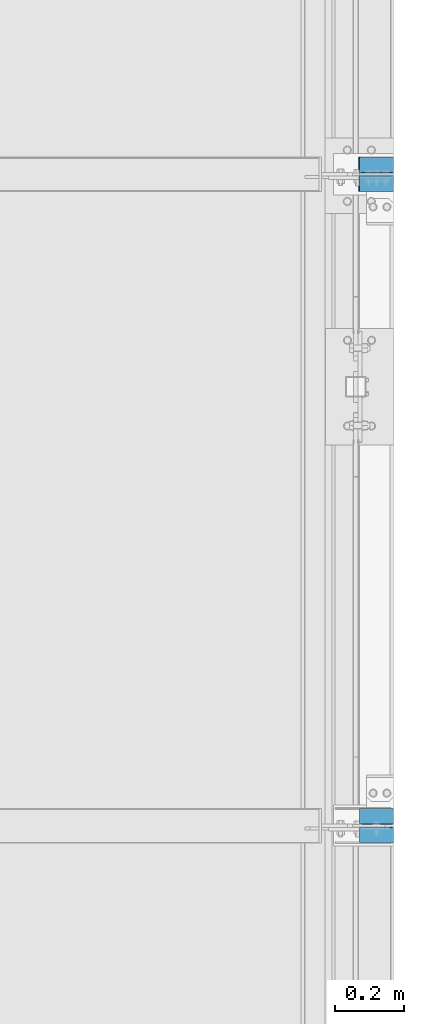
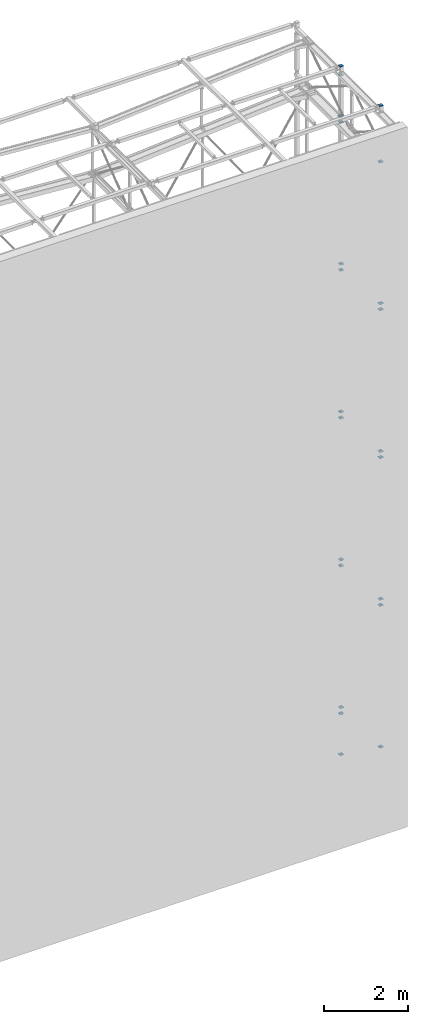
# One storey, part 5 of 271: 42 columns, 11 elements without a shape of their own.
"""IFC2X3 building model written with IfcOpenShell, lengths in millimetres."""

from ifc_helpers import new_model, si_unit, frame, origin_with_axes, origin_2d_with_axis, place, context, subcontext, project, spatial, rectangle, extrude, material, type_object, element, aggregate, save


model = new_model("IFC2X3")

# Units and contexts
model_context = context("Model", 3, precision=1e-05, world=origin_with_axes())
body_context = subcontext(model_context, "Body", "Model", "MODEL_VIEW")
ifc_project = project(units=[si_unit("LENGTHUNIT", "METRE", prefix="MILLI"), si_unit("AREAUNIT", "SQUARE_METRE"), si_unit("VOLUMEUNIT", "CUBIC_METRE"), si_unit("MASSUNIT", "GRAM", prefix="KILO"), si_unit("TIMEUNIT", "SECOND"), si_unit("PLANEANGLEUNIT", "RADIAN"), si_unit("SOLIDANGLEUNIT", "STERADIAN"), si_unit("THERMODYNAMICTEMPERATUREUNIT", "DEGREE_CELSIUS"), si_unit("LUMINOUSINTENSITYUNIT", "LUMEN")], contexts=[model_context])

# Site, building, storey
site_placement = place(None, origin_with_axes())
site = spatial("IfcSite", under=ifc_project, at=site_placement, Name="Undefined", CompositionType="ELEMENT")
building_placement = place(site_placement, origin_with_axes())
building = spatial("IfcBuilding", under=site, at=building_placement, Name="Undefined", CompositionType="ELEMENT")
storey_placement = place(building_placement, origin_with_axes())
storey = spatial("IfcBuildingStorey", under=building, at=storey_placement, Name="Undefined", CompositionType="ELEMENT", Elevation=0.0)

# Assembly, columns
assembly_1_placement = place(storey_placement, origin_with_axes())
assembly_1 = element("IfcElementAssembly", 1, at=assembly_1_placement, inside=storey, AssemblyPlace="NOTDEFINED", PredefinedType="RIGID_FRAME")
ifc_material = material(Name="STEEL/S355JR")
column_type = type_object("IfcColumnType", Name="BL4*100", PredefinedType="NOTDEFINED")
column_1_placement = place(assembly_1_placement, frame((12658.3756870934, 2749.05239091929, 19936.8499999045), z_axis=(0.0, 1.0, 0.0), x_axis=(1.0, 0.0, 0.0)))
column_1 = element("IfcColumn", 2, at=column_1_placement, type_object=column_type, material=ifc_material, Name="BLACHA", ObjectType="BL4*100", context=body_context, shape_type="SweptSolid", body=[
    extrude(rectangle(XDim=4.0, YDim=100.0, at=origin_2d_with_axis()), frame((0.0, 0.0, 45.0), z_axis=(0.0, 0.0, -1.0), x_axis=(0.0, 1.0, 0.0)), (0.0, 0.0, 1.0), 45.0),
])
column_2_placement = place(assembly_1_placement, frame((12658.3756870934, 2804.05225536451, 19936.8499999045), z_axis=(0.0, 1.0, 0.0), x_axis=(1.0, 0.0, 0.0)))
column_2 = element("IfcColumn", 3, at=column_2_placement, type_object=column_type, material=ifc_material, Name="BLACHA", ObjectType="BL4*100", context=body_context, shape_type="SweptSolid", body=[
    extrude(rectangle(XDim=4.0, YDim=100.0, at=origin_2d_with_axis()), frame((0.0, 0.0, 45.0), z_axis=(0.0, 0.0, -1.0), x_axis=(0.0, 1.0, 0.0)), (0.0, 0.0, 1.0), 45.0),
])
column_3_placement = place(assembly_1_placement, frame((12658.3756870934, 2749.05225536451, 18733.8499999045), z_axis=(0.0, 1.0, 0.0), x_axis=(1.0, 0.0, 0.0)))
column_3 = element("IfcColumn", 4, at=column_3_placement, type_object=column_type, material=ifc_material, Name="BLACHA", ObjectType="BL4*100", context=body_context, shape_type="SweptSolid", body=[
    extrude(rectangle(XDim=4.0, YDim=100.0, at=origin_2d_with_axis()), frame((0.0, 0.0, 45.0), z_axis=(0.0, 0.0, -1.0), x_axis=(0.0, 1.0, 0.0)), (0.0, 0.0, 1.0), 45.0),
])
column_4_placement = place(assembly_1_placement, frame((12658.3756870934, 2804.05211980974, 18733.8499999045), z_axis=(0.0, 1.0, 0.0), x_axis=(1.0, 0.0, 0.0)))
column_4 = element("IfcColumn", 5, at=column_4_placement, type_object=column_type, material=ifc_material, Name="BLACHA", ObjectType="BL4*100", context=body_context, shape_type="SweptSolid", body=[
    extrude(rectangle(XDim=4.0, YDim=100.0, at=origin_2d_with_axis()), frame((0.0, 0.0, 45.0), z_axis=(0.0, 0.0, -1.0), x_axis=(0.0, 1.0, 0.0)), (0.0, 0.0, 1.0), 45.0),
])
aggregate(assembly_1, [column_1, column_2, column_3, column_4])

assembly_2_placement = place(storey_placement, origin_with_axes())
assembly_2 = element("IfcElementAssembly", 6, at=assembly_2_placement, inside=storey, AssemblyPlace="NOTDEFINED", PredefinedType="RIGID_FRAME")
column_5_placement = place(assembly_2_placement, frame((12656.3756870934, 2749.05239091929, 79.8499999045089), z_axis=(0.0, 1.0, 0.0), x_axis=(1.0, 0.0, 0.0)))
column_5 = element("IfcColumn", 7, at=column_5_placement, type_object=column_type, material=ifc_material, Name="BLACHA", ObjectType="BL4*100", context=body_context, shape_type="SweptSolid", body=[
    extrude(rectangle(XDim=4.0, YDim=100.0, at=origin_2d_with_axis()), frame((0.0, 0.0, 45.0), z_axis=(0.0, 0.0, -1.0), x_axis=(0.0, 1.0, 0.0)), (0.0, 0.0, 1.0), 45.0),
])
column_6_placement = place(assembly_2_placement, frame((12656.3756870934, 2804.05225536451, 79.8499999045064), z_axis=(0.0, 1.0, 0.0), x_axis=(1.0, 0.0, 0.0)))
column_6 = element("IfcColumn", 8, at=column_6_placement, type_object=column_type, material=ifc_material, Name="BLACHA", ObjectType="BL4*100", context=body_context, shape_type="SweptSolid", body=[
    extrude(rectangle(XDim=4.0, YDim=100.0, at=origin_2d_with_axis()), frame((0.0, 0.0, 45.0), z_axis=(0.0, 0.0, -1.0), x_axis=(0.0, 1.0, 0.0)), (0.0, 0.0, 1.0), 45.0),
])
column_7_placement = place(assembly_2_placement, frame((12656.3756870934, 2749.05225536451, 1274.8499999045), z_axis=(0.0, 1.0, 0.0), x_axis=(1.0, 0.0, 0.0)))
column_7 = element("IfcColumn", 9, at=column_7_placement, type_object=column_type, material=ifc_material, Name="BLACHA", ObjectType="BL4*100", context=body_context, shape_type="SweptSolid", body=[
    extrude(rectangle(XDim=4.0, YDim=100.0, at=origin_2d_with_axis()), frame((0.0, 0.0, 45.0), z_axis=(0.0, 0.0, -1.0), x_axis=(0.0, 1.0, 0.0)), (0.0, 0.0, 1.0), 45.0),
])
column_8_placement = place(assembly_2_placement, frame((12656.3756870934, 2804.05211980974, 1274.84999990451), z_axis=(0.0, 1.0, 0.0), x_axis=(1.0, 0.0, 0.0)))
column_8 = element("IfcColumn", 10, at=column_8_placement, type_object=column_type, material=ifc_material, Name="BLACHA", ObjectType="BL4*100", context=body_context, shape_type="SweptSolid", body=[
    extrude(rectangle(XDim=4.0, YDim=100.0, at=origin_2d_with_axis()), frame((0.0, 0.0, 45.0), z_axis=(0.0, 0.0, -1.0), x_axis=(0.0, 1.0, 0.0)), (0.0, 0.0, 1.0), 45.0),
])
aggregate(assembly_2, [column_5, column_6, column_7, column_8])

assembly_3_placement = place(storey_placement, origin_with_axes())
assembly_3 = element("IfcElementAssembly", 11, at=assembly_3_placement, inside=storey, AssemblyPlace="NOTDEFINED", PredefinedType="RIGID_FRAME")
column_9_placement = place(assembly_3_placement, frame((12658.3756870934, 849.324984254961, 20202.3499999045), z_axis=(0.0, 1.0, 0.0), x_axis=(1.0, 0.0, 0.0)))
column_9 = element("IfcColumn", 12, at=column_9_placement, type_object=column_type, material=ifc_material, Name="BLACHA", ObjectType="BL4*100", context=body_context, shape_type="SweptSolid", body=[
    extrude(rectangle(XDim=4.0, YDim=100.0, at=origin_2d_with_axis()), frame((0.0, 0.0, 100.0), z_axis=(0.0, 0.0, -1.0), x_axis=(0.0, 1.0, 0.0)), (0.0, 0.0, 1.0), 100.0),
])
column_10_placement = place(assembly_3_placement, frame((12658.3756870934, 2749.32498425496, 20202.3499999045), z_axis=(0.0, 1.0, 0.0), x_axis=(1.0, 0.0, 0.0)))
column_10 = element("IfcColumn", 13, at=column_10_placement, type_object=column_type, material=ifc_material, Name="BLACHA", ObjectType="BL4*100", context=body_context, shape_type="SweptSolid", body=[
    extrude(rectangle(XDim=4.0, YDim=100.0, at=origin_2d_with_axis()), frame((0.0, 0.0, 100.0), z_axis=(0.0, 0.0, -1.0), x_axis=(0.0, 1.0, 0.0)), (0.0, 0.0, 1.0), 100.0),
])
aggregate(assembly_3, [column_9, column_10])

# Assembly, column
assembly_4_placement = place(storey_placement, origin_with_axes())
assembly_4 = element("IfcElementAssembly", 14, at=assembly_4_placement, inside=storey, AssemblyPlace="NOTDEFINED", PredefinedType="RIGID_FRAME")
column_11_placement = place(assembly_4_placement, frame((12658.3756870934, 904.052119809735, 18554.8499999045), z_axis=(0.0, 1.0, 0.0), x_axis=(1.0, 0.0, 0.0)))
column_11 = element("IfcColumn", 15, at=column_11_placement, type_object=column_type, material=ifc_material, Name="BLACHA", ObjectType="BL4*100", context=body_context, shape_type="SweptSolid", body=[
    extrude(rectangle(XDim=4.0, YDim=100.0, at=origin_2d_with_axis()), frame((0.0, 0.0, 45.0), z_axis=(0.0, 0.0, -1.0), x_axis=(0.0, 1.0, 0.0)), (0.0, 0.0, 1.0), 45.0),
])

assembly_5_placement = place(storey_placement, origin_with_axes())
assembly_5 = element("IfcElementAssembly", 16, at=assembly_5_placement, inside=storey, AssemblyPlace="NOTDEFINED", PredefinedType="RIGID_FRAME")
column_12_placement = place(assembly_5_placement, frame((12658.3756870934, 2804.05211980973, 18554.8499999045), z_axis=(0.0, 1.0, 0.0), x_axis=(1.0, 0.0, 0.0)))
column_12 = element("IfcColumn", 17, at=column_12_placement, type_object=column_type, material=ifc_material, Name="BLACHA", ObjectType="BL4*100", context=body_context, shape_type="SweptSolid", body=[
    extrude(rectangle(XDim=4.0, YDim=100.0, at=origin_2d_with_axis()), frame((0.0, 0.0, 45.0), z_axis=(0.0, 0.0, -1.0), x_axis=(0.0, 1.0, 0.0)), (0.0, 0.0, 1.0), 45.0),
])

assembly_6_placement = place(storey_placement, origin_with_axes())
assembly_6 = element("IfcElementAssembly", 18, at=assembly_6_placement, inside=storey, AssemblyPlace="NOTDEFINED", PredefinedType="RIGID_FRAME")
column_13_placement = place(assembly_6_placement, frame((12658.3756870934, 904.052119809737, 14234.8499999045), z_axis=(0.0, 1.0, 0.0), x_axis=(1.0, 0.0, 0.0)))
column_13 = element("IfcColumn", 19, at=column_13_placement, type_object=column_type, material=ifc_material, Name="BLACHA", ObjectType="BL4*100", context=body_context, shape_type="SweptSolid", body=[
    extrude(rectangle(XDim=4.0, YDim=100.0, at=origin_2d_with_axis()), frame((0.0, 0.0, 45.0), z_axis=(0.0, 0.0, -1.0), x_axis=(0.0, 1.0, 0.0)), (0.0, 0.0, 1.0), 45.0),
])

assembly_7_placement = place(storey_placement, origin_with_axes())
assembly_7 = element("IfcElementAssembly", 20, at=assembly_7_placement, inside=storey, AssemblyPlace="NOTDEFINED", PredefinedType="RIGID_FRAME")
column_14_placement = place(assembly_7_placement, frame((12658.3756870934, 2804.05211980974, 14234.8499999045), z_axis=(0.0, 1.0, 0.0), x_axis=(1.0, 0.0, 0.0)))
column_14 = element("IfcColumn", 21, at=column_14_placement, type_object=column_type, material=ifc_material, Name="BLACHA", ObjectType="BL4*100", context=body_context, shape_type="SweptSolid", body=[
    extrude(rectangle(XDim=4.0, YDim=100.0, at=origin_2d_with_axis()), frame((0.0, 0.0, 45.0), z_axis=(0.0, 0.0, -1.0), x_axis=(0.0, 1.0, 0.0)), (0.0, 0.0, 1.0), 45.0),
])

assembly_8_placement = place(storey_placement, origin_with_axes())
assembly_8 = element("IfcElementAssembly", 22, at=assembly_8_placement, inside=storey, AssemblyPlace="NOTDEFINED", PredefinedType="RIGID_FRAME")
column_15_placement = place(assembly_8_placement, frame((12658.3756870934, 904.052119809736, 9914.84999990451), z_axis=(0.0, 1.0, 0.0), x_axis=(1.0, 0.0, 0.0)))
column_15 = element("IfcColumn", 23, at=column_15_placement, type_object=column_type, material=ifc_material, Name="BLACHA", ObjectType="BL4*100", context=body_context, shape_type="SweptSolid", body=[
    extrude(rectangle(XDim=4.0, YDim=100.0, at=origin_2d_with_axis()), frame((0.0, 0.0, 45.0), z_axis=(0.0, 0.0, -1.0), x_axis=(0.0, 1.0, 0.0)), (0.0, 0.0, 1.0), 45.0),
])

assembly_9_placement = place(storey_placement, origin_with_axes())
assembly_9 = element("IfcElementAssembly", 24, at=assembly_9_placement, inside=storey, AssemblyPlace="NOTDEFINED", PredefinedType="RIGID_FRAME")
column_16_placement = place(assembly_9_placement, frame((12658.3756870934, 2804.05211980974, 9914.84999990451), z_axis=(0.0, 1.0, 0.0), x_axis=(1.0, 0.0, 0.0)))
column_16 = element("IfcColumn", 25, at=column_16_placement, type_object=column_type, material=ifc_material, Name="BLACHA", ObjectType="BL4*100", context=body_context, shape_type="SweptSolid", body=[
    extrude(rectangle(XDim=4.0, YDim=100.0, at=origin_2d_with_axis()), frame((0.0, 0.0, 45.0), z_axis=(0.0, 0.0, -1.0), x_axis=(0.0, 1.0, 0.0)), (0.0, 0.0, 1.0), 45.0),
])

assembly_10_placement = place(storey_placement, origin_with_axes())
assembly_10 = element("IfcElementAssembly", 26, at=assembly_10_placement, inside=storey, AssemblyPlace="NOTDEFINED", PredefinedType="RIGID_FRAME")
column_17_placement = place(assembly_10_placement, frame((12658.3756870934, 904.052119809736, 5594.84999990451), z_axis=(0.0, 1.0, 0.0), x_axis=(1.0, 0.0, 0.0)))
column_17 = element("IfcColumn", 27, at=column_17_placement, type_object=column_type, material=ifc_material, Name="BLACHA", ObjectType="BL4*100", context=body_context, shape_type="SweptSolid", body=[
    extrude(rectangle(XDim=4.0, YDim=100.0, at=origin_2d_with_axis()), frame((0.0, 0.0, 45.0), z_axis=(0.0, 0.0, -1.0), x_axis=(0.0, 1.0, 0.0)), (0.0, 0.0, 1.0), 45.0),
])

assembly_11_placement = place(storey_placement, origin_with_axes())
assembly_11 = element("IfcElementAssembly", 28, at=assembly_11_placement, inside=storey, AssemblyPlace="NOTDEFINED", PredefinedType="RIGID_FRAME")
column_18_placement = place(assembly_11_placement, frame((12658.3756870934, 2804.05211980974, 5594.84999990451), z_axis=(0.0, 1.0, 0.0), x_axis=(1.0, 0.0, 0.0)))
column_18 = element("IfcColumn", 29, at=column_18_placement, type_object=column_type, material=ifc_material, Name="BLACHA", ObjectType="BL4*100", context=body_context, shape_type="SweptSolid", body=[
    extrude(rectangle(XDim=4.0, YDim=100.0, at=origin_2d_with_axis()), frame((0.0, 0.0, 45.0), z_axis=(0.0, 0.0, -1.0), x_axis=(0.0, 1.0, 0.0)), (0.0, 0.0, 1.0), 45.0),
])

# Column
column_19_placement = place(assembly_4_placement, frame((12658.3756870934, 849.052255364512, 18554.8499999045), z_axis=(0.0, 1.0, 0.0), x_axis=(1.0, 0.0, 0.0)))
column_19 = element("IfcColumn", 30, at=column_19_placement, type_object=column_type, material=ifc_material, Name="BLACHA", ObjectType="BL4*100", context=body_context, shape_type="SweptSolid", body=[
    extrude(rectangle(XDim=4.0, YDim=100.0, at=origin_2d_with_axis()), frame((0.0, 0.0, 45.0), z_axis=(0.0, 0.0, -1.0), x_axis=(0.0, 1.0, 0.0)), (0.0, 0.0, 1.0), 45.0),
])

column_20_placement = place(assembly_4_placement, frame((12658.3756870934, 849.052255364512, 14413.8499999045), z_axis=(0.0, 1.0, 0.0), x_axis=(1.0, 0.0, 0.0)))
column_20 = element("IfcColumn", 31, at=column_20_placement, type_object=column_type, material=ifc_material, Name="BLACHA", ObjectType="BL4*100", context=body_context, shape_type="SweptSolid", body=[
    extrude(rectangle(XDim=4.0, YDim=100.0, at=origin_2d_with_axis()), frame((0.0, 0.0, 45.0), z_axis=(0.0, 0.0, -1.0), x_axis=(0.0, 1.0, 0.0)), (0.0, 0.0, 1.0), 45.0),
])

column_21_placement = place(assembly_4_placement, frame((12658.3756870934, 904.052119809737, 14413.8499999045), z_axis=(0.0, 1.0, 0.0), x_axis=(1.0, 0.0, 0.0)))
column_21 = element("IfcColumn", 32, at=column_21_placement, type_object=column_type, material=ifc_material, Name="BLACHA", ObjectType="BL4*100", context=body_context, shape_type="SweptSolid", body=[
    extrude(rectangle(XDim=4.0, YDim=100.0, at=origin_2d_with_axis()), frame((0.0, 0.0, 45.0), z_axis=(0.0, 0.0, -1.0), x_axis=(0.0, 1.0, 0.0)), (0.0, 0.0, 1.0), 45.0),
])

aggregate(assembly_4, [column_11, column_19, column_20, column_21])

column_22_placement = place(assembly_5_placement, frame((12658.3756870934, 2749.05225536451, 18554.8499999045), z_axis=(0.0, 1.0, 0.0), x_axis=(1.0, 0.0, 0.0)))
column_22 = element("IfcColumn", 33, at=column_22_placement, type_object=column_type, material=ifc_material, Name="BLACHA", ObjectType="BL4*100", context=body_context, shape_type="SweptSolid", body=[
    extrude(rectangle(XDim=4.0, YDim=100.0, at=origin_2d_with_axis()), frame((0.0, 0.0, 45.0), z_axis=(0.0, 0.0, -1.0), x_axis=(0.0, 1.0, 0.0)), (0.0, 0.0, 1.0), 45.0),
])

column_23_placement = place(assembly_5_placement, frame((12658.3756870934, 2749.05225536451, 14413.8499999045), z_axis=(0.0, 1.0, 0.0), x_axis=(1.0, 0.0, 0.0)))
column_23 = element("IfcColumn", 34, at=column_23_placement, type_object=column_type, material=ifc_material, Name="BLACHA", ObjectType="BL4*100", context=body_context, shape_type="SweptSolid", body=[
    extrude(rectangle(XDim=4.0, YDim=100.0, at=origin_2d_with_axis()), frame((0.0, 0.0, 45.0), z_axis=(0.0, 0.0, -1.0), x_axis=(0.0, 1.0, 0.0)), (0.0, 0.0, 1.0), 45.0),
])

column_24_placement = place(assembly_5_placement, frame((12658.3756870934, 2804.05211980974, 14413.8499999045), z_axis=(0.0, 1.0, 0.0), x_axis=(1.0, 0.0, 0.0)))
column_24 = element("IfcColumn", 35, at=column_24_placement, type_object=column_type, material=ifc_material, Name="BLACHA", ObjectType="BL4*100", context=body_context, shape_type="SweptSolid", body=[
    extrude(rectangle(XDim=4.0, YDim=100.0, at=origin_2d_with_axis()), frame((0.0, 0.0, 45.0), z_axis=(0.0, 0.0, -1.0), x_axis=(0.0, 1.0, 0.0)), (0.0, 0.0, 1.0), 45.0),
])

aggregate(assembly_5, [column_12, column_22, column_23, column_24])

column_25_placement = place(assembly_6_placement, frame((12658.3756870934, 849.052255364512, 14234.8499999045), z_axis=(0.0, 1.0, 0.0), x_axis=(1.0, 0.0, 0.0)))
column_25 = element("IfcColumn", 36, at=column_25_placement, type_object=column_type, material=ifc_material, Name="BLACHA", ObjectType="BL4*100", context=body_context, shape_type="SweptSolid", body=[
    extrude(rectangle(XDim=4.0, YDim=100.0, at=origin_2d_with_axis()), frame((0.0, 0.0, 45.0), z_axis=(0.0, 0.0, -1.0), x_axis=(0.0, 1.0, 0.0)), (0.0, 0.0, 1.0), 45.0),
])

column_26_placement = place(assembly_6_placement, frame((12658.3756870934, 849.052255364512, 10093.8499999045), z_axis=(0.0, 1.0, 0.0), x_axis=(1.0, 0.0, 0.0)))
column_26 = element("IfcColumn", 37, at=column_26_placement, type_object=column_type, material=ifc_material, Name="BLACHA", ObjectType="BL4*100", context=body_context, shape_type="SweptSolid", body=[
    extrude(rectangle(XDim=4.0, YDim=100.0, at=origin_2d_with_axis()), frame((0.0, 0.0, 45.0), z_axis=(0.0, 0.0, -1.0), x_axis=(0.0, 1.0, 0.0)), (0.0, 0.0, 1.0), 45.0),
])

column_27_placement = place(assembly_6_placement, frame((12658.3756870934, 904.052119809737, 10093.8499999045), z_axis=(0.0, 1.0, 0.0), x_axis=(1.0, 0.0, 0.0)))
column_27 = element("IfcColumn", 38, at=column_27_placement, type_object=column_type, material=ifc_material, Name="BLACHA", ObjectType="BL4*100", context=body_context, shape_type="SweptSolid", body=[
    extrude(rectangle(XDim=4.0, YDim=100.0, at=origin_2d_with_axis()), frame((0.0, 0.0, 45.0), z_axis=(0.0, 0.0, -1.0), x_axis=(0.0, 1.0, 0.0)), (0.0, 0.0, 1.0), 45.0),
])

aggregate(assembly_6, [column_13, column_25, column_26, column_27])

column_28_placement = place(assembly_7_placement, frame((12658.3756870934, 2749.05225536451, 14234.8499999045), z_axis=(0.0, 1.0, 0.0), x_axis=(1.0, 0.0, 0.0)))
column_28 = element("IfcColumn", 39, at=column_28_placement, type_object=column_type, material=ifc_material, Name="BLACHA", ObjectType="BL4*100", context=body_context, shape_type="SweptSolid", body=[
    extrude(rectangle(XDim=4.0, YDim=100.0, at=origin_2d_with_axis()), frame((0.0, 0.0, 45.0), z_axis=(0.0, 0.0, -1.0), x_axis=(0.0, 1.0, 0.0)), (0.0, 0.0, 1.0), 45.0),
])

column_29_placement = place(assembly_7_placement, frame((12658.3756870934, 2749.05225536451, 10093.8499999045), z_axis=(0.0, 1.0, 0.0), x_axis=(1.0, 0.0, 0.0)))
column_29 = element("IfcColumn", 40, at=column_29_placement, type_object=column_type, material=ifc_material, Name="BLACHA", ObjectType="BL4*100", context=body_context, shape_type="SweptSolid", body=[
    extrude(rectangle(XDim=4.0, YDim=100.0, at=origin_2d_with_axis()), frame((0.0, 0.0, 45.0), z_axis=(0.0, 0.0, -1.0), x_axis=(0.0, 1.0, 0.0)), (0.0, 0.0, 1.0), 45.0),
])

column_30_placement = place(assembly_7_placement, frame((12658.3756870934, 2804.05211980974, 10093.8499999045), z_axis=(0.0, 1.0, 0.0), x_axis=(1.0, 0.0, 0.0)))
column_30 = element("IfcColumn", 41, at=column_30_placement, type_object=column_type, material=ifc_material, Name="BLACHA", ObjectType="BL4*100", context=body_context, shape_type="SweptSolid", body=[
    extrude(rectangle(XDim=4.0, YDim=100.0, at=origin_2d_with_axis()), frame((0.0, 0.0, 45.0), z_axis=(0.0, 0.0, -1.0), x_axis=(0.0, 1.0, 0.0)), (0.0, 0.0, 1.0), 45.0),
])

aggregate(assembly_7, [column_14, column_28, column_29, column_30])

column_31_placement = place(assembly_8_placement, frame((12658.3756870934, 849.052255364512, 9914.84999990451), z_axis=(0.0, 1.0, 0.0), x_axis=(1.0, 0.0, 0.0)))
column_31 = element("IfcColumn", 42, at=column_31_placement, type_object=column_type, material=ifc_material, Name="BLACHA", ObjectType="BL4*100", context=body_context, shape_type="SweptSolid", body=[
    extrude(rectangle(XDim=4.0, YDim=100.0, at=origin_2d_with_axis()), frame((0.0, 0.0, 45.0), z_axis=(0.0, 0.0, -1.0), x_axis=(0.0, 1.0, 0.0)), (0.0, 0.0, 1.0), 45.0),
])

column_32_placement = place(assembly_8_placement, frame((12658.3756870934, 849.052255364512, 5773.84999990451), z_axis=(0.0, 1.0, 0.0), x_axis=(1.0, 0.0, 0.0)))
column_32 = element("IfcColumn", 43, at=column_32_placement, type_object=column_type, material=ifc_material, Name="BLACHA", ObjectType="BL4*100", context=body_context, shape_type="SweptSolid", body=[
    extrude(rectangle(XDim=4.0, YDim=100.0, at=origin_2d_with_axis()), frame((0.0, 0.0, 45.0), z_axis=(0.0, 0.0, -1.0), x_axis=(0.0, 1.0, 0.0)), (0.0, 0.0, 1.0), 45.0),
])

column_33_placement = place(assembly_8_placement, frame((12658.3756870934, 904.052119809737, 5773.84999990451), z_axis=(0.0, 1.0, 0.0), x_axis=(1.0, 0.0, 0.0)))
column_33 = element("IfcColumn", 44, at=column_33_placement, type_object=column_type, material=ifc_material, Name="BLACHA", ObjectType="BL4*100", context=body_context, shape_type="SweptSolid", body=[
    extrude(rectangle(XDim=4.0, YDim=100.0, at=origin_2d_with_axis()), frame((0.0, 0.0, 45.0), z_axis=(0.0, 0.0, -1.0), x_axis=(0.0, 1.0, 0.0)), (0.0, 0.0, 1.0), 45.0),
])

aggregate(assembly_8, [column_15, column_31, column_32, column_33])

column_34_placement = place(assembly_9_placement, frame((12658.3756870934, 2749.05225536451, 9914.84999990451), z_axis=(0.0, 1.0, 0.0), x_axis=(1.0, 0.0, 0.0)))
column_34 = element("IfcColumn", 45, at=column_34_placement, type_object=column_type, material=ifc_material, Name="BLACHA", ObjectType="BL4*100", context=body_context, shape_type="SweptSolid", body=[
    extrude(rectangle(XDim=4.0, YDim=100.0, at=origin_2d_with_axis()), frame((0.0, 0.0, 45.0), z_axis=(0.0, 0.0, -1.0), x_axis=(0.0, 1.0, 0.0)), (0.0, 0.0, 1.0), 45.0),
])

column_35_placement = place(assembly_9_placement, frame((12658.3756870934, 2749.05225536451, 5773.84999990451), z_axis=(0.0, 1.0, 0.0), x_axis=(1.0, 0.0, 0.0)))
column_35 = element("IfcColumn", 46, at=column_35_placement, type_object=column_type, material=ifc_material, Name="BLACHA", ObjectType="BL4*100", context=body_context, shape_type="SweptSolid", body=[
    extrude(rectangle(XDim=4.0, YDim=100.0, at=origin_2d_with_axis()), frame((0.0, 0.0, 45.0), z_axis=(0.0, 0.0, -1.0), x_axis=(0.0, 1.0, 0.0)), (0.0, 0.0, 1.0), 45.0),
])

column_36_placement = place(assembly_9_placement, frame((12658.3756870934, 2804.05211980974, 5773.84999990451), z_axis=(0.0, 1.0, 0.0), x_axis=(1.0, 0.0, 0.0)))
column_36 = element("IfcColumn", 47, at=column_36_placement, type_object=column_type, material=ifc_material, Name="BLACHA", ObjectType="BL4*100", context=body_context, shape_type="SweptSolid", body=[
    extrude(rectangle(XDim=4.0, YDim=100.0, at=origin_2d_with_axis()), frame((0.0, 0.0, 45.0), z_axis=(0.0, 0.0, -1.0), x_axis=(0.0, 1.0, 0.0)), (0.0, 0.0, 1.0), 45.0),
])

aggregate(assembly_9, [column_16, column_34, column_35, column_36])

column_37_placement = place(assembly_10_placement, frame((12658.3756870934, 849.052255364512, 5594.8499999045), z_axis=(0.0, 1.0, 0.0), x_axis=(1.0, 0.0, 0.0)))
column_37 = element("IfcColumn", 48, at=column_37_placement, type_object=column_type, material=ifc_material, Name="BLACHA", ObjectType="BL4*100", context=body_context, shape_type="SweptSolid", body=[
    extrude(rectangle(XDim=4.0, YDim=100.0, at=origin_2d_with_axis()), frame((0.0, 0.0, 45.0), z_axis=(0.0, 0.0, -1.0), x_axis=(0.0, 1.0, 0.0)), (0.0, 0.0, 1.0), 45.0),
])

column_38_placement = place(assembly_10_placement, frame((12658.3756870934, 849.052255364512, 1453.84999990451), z_axis=(0.0, 1.0, 0.0), x_axis=(1.0, 0.0, 0.0)))
column_38 = element("IfcColumn", 49, at=column_38_placement, type_object=column_type, material=ifc_material, Name="BLACHA", ObjectType="BL4*100", context=body_context, shape_type="SweptSolid", body=[
    extrude(rectangle(XDim=4.0, YDim=100.0, at=origin_2d_with_axis()), frame((0.0, 0.0, 45.0), z_axis=(0.0, 0.0, -1.0), x_axis=(0.0, 1.0, 0.0)), (0.0, 0.0, 1.0), 45.0),
])

column_39_placement = place(assembly_10_placement, frame((12658.3756870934, 904.052119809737, 1453.84999990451), z_axis=(0.0, 1.0, 0.0), x_axis=(1.0, 0.0, 0.0)))
column_39 = element("IfcColumn", 50, at=column_39_placement, type_object=column_type, material=ifc_material, Name="BLACHA", ObjectType="BL4*100", context=body_context, shape_type="SweptSolid", body=[
    extrude(rectangle(XDim=4.0, YDim=100.0, at=origin_2d_with_axis()), frame((0.0, 0.0, 45.0), z_axis=(0.0, 0.0, -1.0), x_axis=(0.0, 1.0, 0.0)), (0.0, 0.0, 1.0), 45.0),
])

aggregate(assembly_10, [column_17, column_37, column_38, column_39])

column_40_placement = place(assembly_11_placement, frame((12658.3756870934, 2749.05225536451, 5594.8499999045), z_axis=(0.0, 1.0, 0.0), x_axis=(1.0, 0.0, 0.0)))
column_40 = element("IfcColumn", 51, at=column_40_placement, type_object=column_type, material=ifc_material, Name="BLACHA", ObjectType="BL4*100", context=body_context, shape_type="SweptSolid", body=[
    extrude(rectangle(XDim=4.0, YDim=100.0, at=origin_2d_with_axis()), frame((0.0, 0.0, 45.0), z_axis=(0.0, 0.0, -1.0), x_axis=(0.0, 1.0, 0.0)), (0.0, 0.0, 1.0), 45.0),
])

column_41_placement = place(assembly_11_placement, frame((12658.3756870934, 2749.05225536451, 1453.84999990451), z_axis=(0.0, 1.0, 0.0), x_axis=(1.0, 0.0, 0.0)))
column_41 = element("IfcColumn", 52, at=column_41_placement, type_object=column_type, material=ifc_material, Name="BLACHA", ObjectType="BL4*100", context=body_context, shape_type="SweptSolid", body=[
    extrude(rectangle(XDim=4.0, YDim=100.0, at=origin_2d_with_axis()), frame((0.0, 0.0, 45.0), z_axis=(0.0, 0.0, -1.0), x_axis=(0.0, 1.0, 0.0)), (0.0, 0.0, 1.0), 45.0),
])

column_42_placement = place(assembly_11_placement, frame((12658.3756870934, 2804.05211980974, 1453.84999990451), z_axis=(0.0, 1.0, 0.0), x_axis=(1.0, 0.0, 0.0)))
column_42 = element("IfcColumn", 53, at=column_42_placement, type_object=column_type, material=ifc_material, Name="BLACHA", ObjectType="BL4*100", context=body_context, shape_type="SweptSolid", body=[
    extrude(rectangle(XDim=4.0, YDim=100.0, at=origin_2d_with_axis()), frame((0.0, 0.0, 45.0), z_axis=(0.0, 0.0, -1.0), x_axis=(0.0, 1.0, 0.0)), (0.0, 0.0, 1.0), 45.0),
])

aggregate(assembly_11, [column_18, column_40, column_41, column_42])

save(model, "model.ifc")
